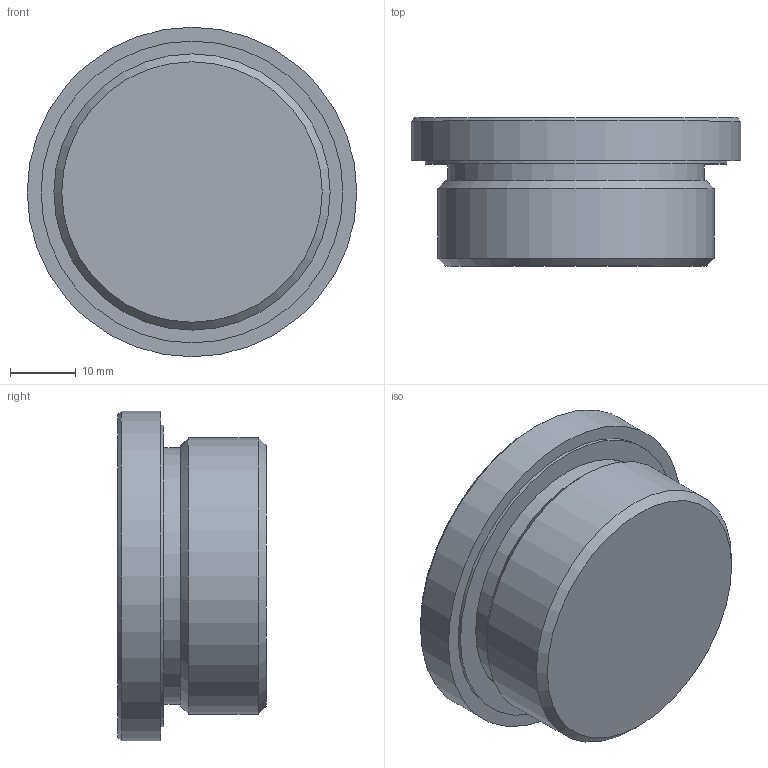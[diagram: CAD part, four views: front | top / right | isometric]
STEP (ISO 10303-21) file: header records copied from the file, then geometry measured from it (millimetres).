
FILE_DESCRIPTION( ( 'STEP AP203' ), '1' );
FILE_NAME( 'C:/Temp/Ganter_Step_05_03_2020/data/3_5/gn749/gn749_b/Threaded plug GN 749-G11_4-B.stp', '2020-03-12T13:41:42', ( 'License CC BY-ND 4.0' ), ( 'CADENAS' ), ' ', 'PARTsolutions', ' ' );
FILE_SCHEMA( ( 'CONFIG_CONTROL_DESIGN' ) );
Length unit declared in the file: millimetre
Products named in the file (1): _Threaded plug GN 749-G11/4-B
Bounding box: 50 x 22.5 x 50 mm (x, y, z)
Volume: 29245.2 mm3; surface area: 8220.2 mm2
Topology: 1 solids, 1 shells, 21 faces, 41 edges, 27 vertices
Faces by surface type: plane 13, cylinder 5, cone 3
Full cylindrical faces by diameter (mm): 38.91 x1, 39.31 x1, 41.91 x1, 45.8 x1, 50 x1
Entity records: 526 total; most frequent: DIRECTION 88, CARTESIAN_POINT 78, ORIENTED_EDGE 62, AXIS2_PLACEMENT_3D 35, EDGE_LOOP 34, EDGE_CURVE 31, FACE_OUTER_BOUND 26, VERTEX_POINT 25
